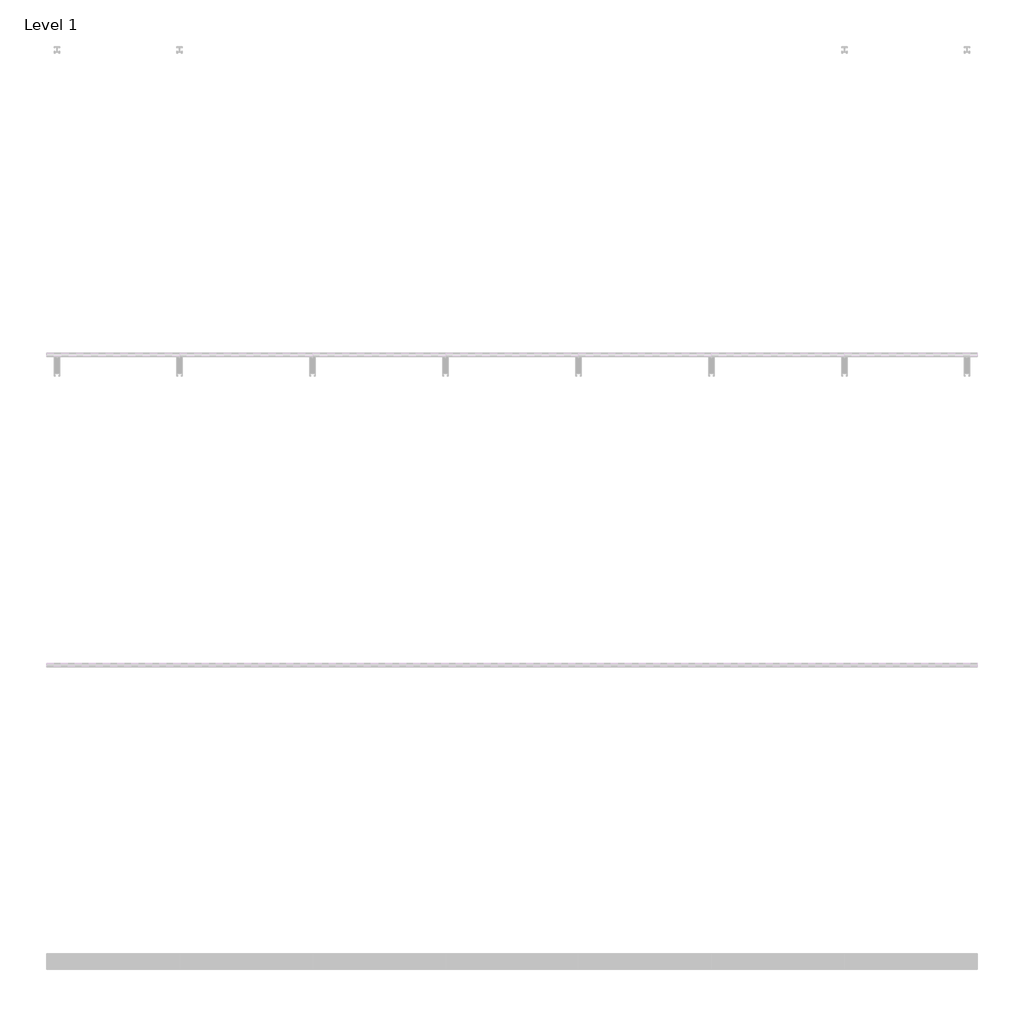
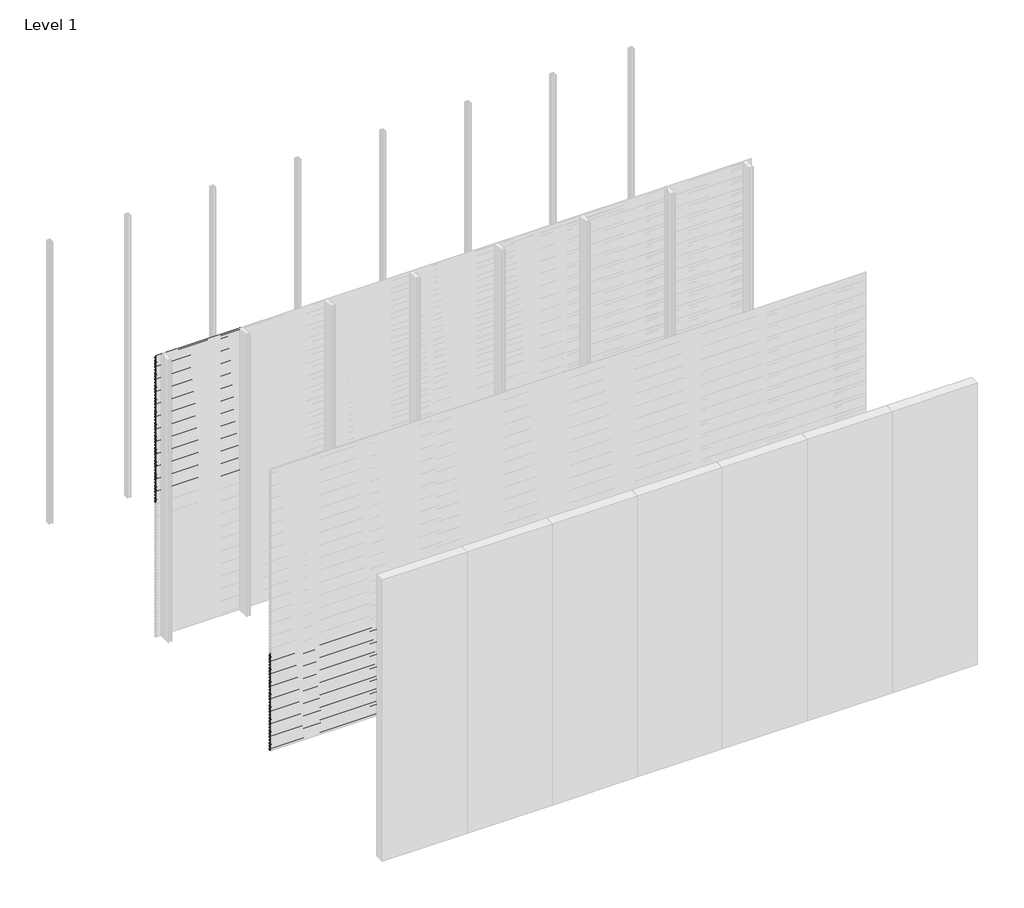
# One storey, part 14 of 96: 78 proxies.
"""IFC4 building model written with IfcOpenShell, lengths in millimetres."""

from ifc_helpers import new_model, si_unit, frame, origin, place, context, project, spatial, polyline, outline, extrude, element, save

model = new_model("IFC4")

# Units and contexts
model_context = context("Model", 3, world=origin())
ifc_project = project(units=[si_unit("LENGTHUNIT", "METRE", prefix="MILLI")], contexts=[model_context])

# Site, building, storey
site = spatial("IfcSite", under=ifc_project)
building = spatial("IfcBuilding", under=site)
storey = spatial("IfcBuildingStorey", under=building, Name="Level 1", Elevation=0.0)

# Proxies
placement = place(None, origin())
element("IfcBuildingElementProxy", 1, Name="Wall Sweeps", at=placement, inside=storey, context=model_context, shape_type="SweptSolid", body=[
    extrude(outline(polyline([(-47977.6, 2971.7655033), (-47977.6, 2957.4779188), (-47982.4114965, 2954.7), (-47982.4114965, 2955.9701706), (-47978.85, 2958.0264016), (-47978.85, 2971.0437382), (-47998.0, 2982.1000799), (-47998.0, 2997.0), (-47996.75, 2997.0), (-47996.75, 2982.8217609), (-47977.6, 2971.7655033)])), frame((0.0, 0.0, 0.0), z_axis=(1.0, 0.0, 0.0), x_axis=(0.0, 1.0, 0.0)), (0.0, 0.0, 1.0), 857.1428571),
])
element("IfcBuildingElementProxy", 2, Name="Wall Sweeps", at=placement, inside=storey, context=model_context, shape_type="SweptSolid", body=[
    extrude(outline(polyline([(-47977.6, 2938.4655033), (-47977.6, 2924.1779188), (-47982.4114965, 2921.4), (-47982.4114965, 2922.6701706), (-47978.85, 2924.7264016), (-47978.85, 2937.7437382), (-47998.0, 2948.8000799), (-47998.0, 2963.7), (-47996.75, 2963.7), (-47996.75, 2949.5217609), (-47977.6, 2938.4655033)])), frame((0.0, 0.0, 0.0), z_axis=(1.0, 0.0, 0.0), x_axis=(0.0, 1.0, 0.0)), (0.0, 0.0, 1.0), 857.1428571),
])
element("IfcBuildingElementProxy", 3, Name="Wall Sweeps", at=placement, inside=storey, context=model_context, shape_type="SweptSolid", body=[
    extrude(outline(polyline([(-47977.6, 2905.1655033), (-47977.6, 2890.8779188), (-47982.4114965, 2888.1), (-47982.4114965, 2889.3701706), (-47978.85, 2891.4264016), (-47978.85, 2904.4437382), (-47998.0, 2915.5000799), (-47998.0, 2930.4), (-47996.75, 2930.4), (-47996.75, 2916.2217609), (-47977.6, 2905.1655033)])), frame((0.0, 0.0, 0.0), z_axis=(1.0, 0.0, 0.0), x_axis=(0.0, 1.0, 0.0)), (0.0, 0.0, 1.0), 857.1428571),
])
element("IfcBuildingElementProxy", 4, Name="Wall Sweeps", at=placement, inside=storey, context=model_context, shape_type="SweptSolid", body=[
    extrude(outline(polyline([(-47977.6, 2871.8655033), (-47977.6, 2857.5779188), (-47982.4114965, 2854.8), (-47982.4114965, 2856.0701706), (-47978.85, 2858.1264016), (-47978.85, 2871.1437382), (-47998.0, 2882.2000799), (-47998.0, 2897.1), (-47996.75, 2897.1), (-47996.75, 2882.9217609), (-47977.6, 2871.8655033)])), frame((0.0, 0.0, 0.0), z_axis=(1.0, 0.0, 0.0), x_axis=(0.0, 1.0, 0.0)), (0.0, 0.0, 1.0), 857.1428571),
])
element("IfcBuildingElementProxy", 5, Name="Wall Sweeps", at=placement, inside=storey, context=model_context, shape_type="SweptSolid", body=[
    extrude(outline(polyline([(-47977.6, 2838.5655033), (-47977.6, 2824.2779188), (-47982.4114965, 2821.5), (-47982.4114965, 2822.7701706), (-47978.85, 2824.8264016), (-47978.85, 2837.8437382), (-47998.0, 2848.9000799), (-47998.0, 2863.8), (-47996.75, 2863.8), (-47996.75, 2849.6217609), (-47977.6, 2838.5655033)])), frame((0.0, 0.0, 0.0), z_axis=(1.0, 0.0, 0.0), x_axis=(0.0, 1.0, 0.0)), (0.0, 0.0, 1.0), 857.1428571),
])
element("IfcBuildingElementProxy", 6, Name="Wall Sweeps", at=placement, inside=storey, context=model_context, shape_type="SweptSolid", body=[
    extrude(outline(polyline([(-47977.6, 2805.2655033), (-47977.6, 2790.9779188), (-47982.4114965, 2788.2), (-47982.4114965, 2789.4701706), (-47978.85, 2791.5264016), (-47978.85, 2804.5437382), (-47998.0, 2815.6000799), (-47998.0, 2830.5), (-47996.75, 2830.5), (-47996.75, 2816.3217609), (-47977.6, 2805.2655033)])), frame((0.0, 0.0, 0.0), z_axis=(1.0, 0.0, 0.0), x_axis=(0.0, 1.0, 0.0)), (0.0, 0.0, 1.0), 857.1428571),
])
element("IfcBuildingElementProxy", 7, Name="Wall Sweeps", at=placement, inside=storey, context=model_context, shape_type="SweptSolid", body=[
    extrude(outline(polyline([(-47977.6, 2771.9655033), (-47977.6, 2757.6779188), (-47982.4114965, 2754.9), (-47982.4114965, 2756.1701706), (-47978.85, 2758.2264016), (-47978.85, 2771.2437382), (-47998.0, 2782.3000799), (-47998.0, 2797.2), (-47996.75, 2797.2), (-47996.75, 2783.0217609), (-47977.6, 2771.9655033)])), frame((0.0, 0.0, 0.0), z_axis=(1.0, 0.0, 0.0), x_axis=(0.0, 1.0, 0.0)), (0.0, 0.0, 1.0), 857.1428571),
])
element("IfcBuildingElementProxy", 8, Name="Wall Sweeps", at=placement, inside=storey, context=model_context, shape_type="SweptSolid", body=[
    extrude(outline(polyline([(-47977.6, 2738.6655033), (-47977.6, 2724.3779188), (-47982.4114965, 2721.6), (-47982.4114965, 2722.8701706), (-47978.85, 2724.9264016), (-47978.85, 2737.9437382), (-47998.0, 2749.0000799), (-47998.0, 2763.9), (-47996.75, 2763.9), (-47996.75, 2749.7217609), (-47977.6, 2738.6655033)])), frame((0.0, 0.0, 0.0), z_axis=(1.0, 0.0, 0.0), x_axis=(0.0, 1.0, 0.0)), (0.0, 0.0, 1.0), 857.1428571),
])
element("IfcBuildingElementProxy", 9, Name="Wall Sweeps", at=placement, inside=storey, context=model_context, shape_type="SweptSolid", body=[
    extrude(outline(polyline([(-47977.6, 2705.3655033), (-47977.6, 2691.0779188), (-47982.4114965, 2688.3), (-47982.4114965, 2689.5701706), (-47978.85, 2691.6264016), (-47978.85, 2704.6437382), (-47998.0, 2715.7000799), (-47998.0, 2730.6), (-47996.75, 2730.6), (-47996.75, 2716.4217609), (-47977.6, 2705.3655033)])), frame((0.0, 0.0, 0.0), z_axis=(1.0, 0.0, 0.0), x_axis=(0.0, 1.0, 0.0)), (0.0, 0.0, 1.0), 857.1428571),
])
element("IfcBuildingElementProxy", 10, Name="Wall Sweeps", at=placement, inside=storey, context=model_context, shape_type="SweptSolid", body=[
    extrude(outline(polyline([(-47977.6, 2672.0655033), (-47977.6, 2657.7779188), (-47982.4114965, 2655.0), (-47982.4114965, 2656.2701706), (-47978.85, 2658.3264016), (-47978.85, 2671.3437382), (-47998.0, 2682.4000799), (-47998.0, 2697.3), (-47996.75, 2697.3), (-47996.75, 2683.1217609), (-47977.6, 2672.0655033)])), frame((0.0, 0.0, 0.0), z_axis=(1.0, 0.0, 0.0), x_axis=(0.0, 1.0, 0.0)), (0.0, 0.0, 1.0), 857.1428571),
])
element("IfcBuildingElementProxy", 11, Name="Wall Sweeps", at=placement, inside=storey, context=model_context, shape_type="SweptSolid", body=[
    extrude(outline(polyline([(-47977.6, 2638.7655033), (-47977.6, 2624.4779188), (-47982.4114965, 2621.7), (-47982.4114965, 2622.9701706), (-47978.85, 2625.0264016), (-47978.85, 2638.0437382), (-47998.0, 2649.1000799), (-47998.0, 2664.0), (-47996.75, 2664.0), (-47996.75, 2649.8217609), (-47977.6, 2638.7655033)])), frame((0.0, 0.0, 0.0), z_axis=(1.0, 0.0, 0.0), x_axis=(0.0, 1.0, 0.0)), (0.0, 0.0, 1.0), 857.1428571),
])
element("IfcBuildingElementProxy", 12, Name="Wall Sweeps", at=placement, inside=storey, context=model_context, shape_type="SweptSolid", body=[
    extrude(outline(polyline([(-47977.6, 2605.4655033), (-47977.6, 2591.1779188), (-47982.4114965, 2588.4), (-47982.4114965, 2589.6701706), (-47978.85, 2591.7264016), (-47978.85, 2604.7437382), (-47998.0, 2615.8000799), (-47998.0, 2630.7), (-47996.75, 2630.7), (-47996.75, 2616.5217609), (-47977.6, 2605.4655033)])), frame((0.0, 0.0, 0.0), z_axis=(1.0, 0.0, 0.0), x_axis=(0.0, 1.0, 0.0)), (0.0, 0.0, 1.0), 857.1428571),
])
element("IfcBuildingElementProxy", 13, Name="Wall Sweeps", at=placement, inside=storey, context=model_context, shape_type="SweptSolid", body=[
    extrude(outline(polyline([(-47977.6, 2572.1655033), (-47977.6, 2557.8779188), (-47982.4114965, 2555.1), (-47982.4114965, 2556.3701706), (-47978.85, 2558.4264016), (-47978.85, 2571.4437382), (-47998.0, 2582.5000799), (-47998.0, 2597.4), (-47996.75, 2597.4), (-47996.75, 2583.2217609), (-47977.6, 2572.1655033)])), frame((0.0, 0.0, 0.0), z_axis=(1.0, 0.0, 0.0), x_axis=(0.0, 1.0, 0.0)), (0.0, 0.0, 1.0), 857.1428571),
])
element("IfcBuildingElementProxy", 14, Name="Wall Sweeps", at=placement, inside=storey, context=model_context, shape_type="SweptSolid", body=[
    extrude(outline(polyline([(-47977.6, 2538.8655033), (-47977.6, 2524.5779188), (-47982.4114965, 2521.8), (-47982.4114965, 2523.0701706), (-47978.85, 2525.1264016), (-47978.85, 2538.1437382), (-47998.0, 2549.2000799), (-47998.0, 2564.1), (-47996.75, 2564.1), (-47996.75, 2549.9217609), (-47977.6, 2538.8655033)])), frame((0.0, 0.0, 0.0), z_axis=(1.0, 0.0, 0.0), x_axis=(0.0, 1.0, 0.0)), (0.0, 0.0, 1.0), 857.1428571),
])
element("IfcBuildingElementProxy", 15, Name="Wall Sweeps", at=placement, inside=storey, context=model_context, shape_type="SweptSolid", body=[
    extrude(outline(polyline([(-47977.6, 2505.5655033), (-47977.6, 2491.2779188), (-47982.4114965, 2488.5), (-47982.4114965, 2489.7701706), (-47978.85, 2491.8264016), (-47978.85, 2504.8437382), (-47998.0, 2515.9000799), (-47998.0, 2530.8), (-47996.75, 2530.8), (-47996.75, 2516.6217609), (-47977.6, 2505.5655033)])), frame((0.0, 0.0, 0.0), z_axis=(1.0, 0.0, 0.0), x_axis=(0.0, 1.0, 0.0)), (0.0, 0.0, 1.0), 857.1428571),
])
element("IfcBuildingElementProxy", 16, Name="Wall Sweeps", at=placement, inside=storey, context=model_context, shape_type="SweptSolid", body=[
    extrude(outline(polyline([(-47977.6, 2472.2655033), (-47977.6, 2457.9779188), (-47982.4114965, 2455.2), (-47982.4114965, 2456.4701706), (-47978.85, 2458.5264016), (-47978.85, 2471.5437382), (-47998.0, 2482.6000799), (-47998.0, 2497.5), (-47996.75, 2497.5), (-47996.75, 2483.3217609), (-47977.6, 2472.2655033)])), frame((0.0, 0.0, 0.0), z_axis=(1.0, 0.0, 0.0), x_axis=(0.0, 1.0, 0.0)), (0.0, 0.0, 1.0), 857.1428571),
])
element("IfcBuildingElementProxy", 17, Name="Wall Sweeps", at=placement, inside=storey, context=model_context, shape_type="SweptSolid", body=[
    extrude(outline(polyline([(-47977.6, 2438.9655033), (-47977.6, 2424.6779188), (-47982.4114965, 2421.9), (-47982.4114965, 2423.1701706), (-47978.85, 2425.2264016), (-47978.85, 2438.2437382), (-47998.0, 2449.3000799), (-47998.0, 2464.2), (-47996.75, 2464.2), (-47996.75, 2450.0217609), (-47977.6, 2438.9655033)])), frame((0.0, 0.0, 0.0), z_axis=(1.0, 0.0, 0.0), x_axis=(0.0, 1.0, 0.0)), (0.0, 0.0, 1.0), 857.1428571),
])
element("IfcBuildingElementProxy", 18, Name="Wall Sweeps", at=placement, inside=storey, context=model_context, shape_type="SweptSolid", body=[
    extrude(outline(polyline([(-47977.6, 2405.6655033), (-47977.6, 2391.3779188), (-47982.4114965, 2388.6), (-47982.4114965, 2389.8701706), (-47978.85, 2391.9264016), (-47978.85, 2404.9437382), (-47998.0, 2416.0000799), (-47998.0, 2430.9), (-47996.75, 2430.9), (-47996.75, 2416.7217609), (-47977.6, 2405.6655033)])), frame((0.0, 0.0, 0.0), z_axis=(1.0, 0.0, 0.0), x_axis=(0.0, 1.0, 0.0)), (0.0, 0.0, 1.0), 857.1428571),
])
element("IfcBuildingElementProxy", 19, Name="Wall Sweeps", at=placement, inside=storey, context=model_context, shape_type="SweptSolid", body=[
    extrude(outline(polyline([(-47977.6, 2372.3655033), (-47977.6, 2358.0779188), (-47982.4114965, 2355.3), (-47982.4114965, 2356.5701706), (-47978.85, 2358.6264016), (-47978.85, 2371.6437382), (-47998.0, 2382.7000799), (-47998.0, 2397.6), (-47996.75, 2397.6), (-47996.75, 2383.4217609), (-47977.6, 2372.3655033)])), frame((0.0, 0.0, 0.0), z_axis=(1.0, 0.0, 0.0), x_axis=(0.0, 1.0, 0.0)), (0.0, 0.0, 1.0), 857.1428571),
])
element("IfcBuildingElementProxy", 20, Name="Wall Sweeps", at=placement, inside=storey, context=model_context, shape_type="SweptSolid", body=[
    extrude(outline(polyline([(-47977.6, 2339.0655033), (-47977.6, 2324.7779188), (-47982.4114965, 2322.0), (-47982.4114965, 2323.2701706), (-47978.85, 2325.3264016), (-47978.85, 2338.3437382), (-47998.0, 2349.4000799), (-47998.0, 2364.3), (-47996.75, 2364.3), (-47996.75, 2350.1217609), (-47977.6, 2339.0655033)])), frame((0.0, 0.0, 0.0), z_axis=(1.0, 0.0, 0.0), x_axis=(0.0, 1.0, 0.0)), (0.0, 0.0, 1.0), 857.1428571),
])
element("IfcBuildingElementProxy", 21, Name="Wall Sweeps", at=placement, inside=storey, context=model_context, shape_type="SweptSolid", body=[
    extrude(outline(polyline([(-47977.6, 2305.7655033), (-47977.6, 2291.4779188), (-47982.4114965, 2288.7), (-47982.4114965, 2289.9701706), (-47978.85, 2292.0264016), (-47978.85, 2305.0437382), (-47998.0, 2316.1000799), (-47998.0, 2331.0), (-47996.75, 2331.0), (-47996.75, 2316.8217609), (-47977.6, 2305.7655033)])), frame((0.0, 0.0, 0.0), z_axis=(1.0, 0.0, 0.0), x_axis=(0.0, 1.0, 0.0)), (0.0, 0.0, 1.0), 857.1428571),
])
element("IfcBuildingElementProxy", 22, Name="Wall Sweeps", at=placement, inside=storey, context=model_context, shape_type="SweptSolid", body=[
    extrude(outline(polyline([(-47977.6, 2272.4655033), (-47977.6, 2258.1779188), (-47982.4114965, 2255.4), (-47982.4114965, 2256.6701706), (-47978.85, 2258.7264016), (-47978.85, 2271.7437382), (-47998.0, 2282.8000799), (-47998.0, 2297.7), (-47996.75, 2297.7), (-47996.75, 2283.5217609), (-47977.6, 2272.4655033)])), frame((0.0, 0.0, 0.0), z_axis=(1.0, 0.0, 0.0), x_axis=(0.0, 1.0, 0.0)), (0.0, 0.0, 1.0), 857.1428571),
])
element("IfcBuildingElementProxy", 23, Name="Wall Sweeps", at=placement, inside=storey, context=model_context, shape_type="SweptSolid", body=[
    extrude(outline(polyline([(-47977.6, 2239.1655033), (-47977.6, 2224.8779188), (-47982.4114965, 2222.1), (-47982.4114965, 2223.3701706), (-47978.85, 2225.4264016), (-47978.85, 2238.4437382), (-47998.0, 2249.5000799), (-47998.0, 2264.4), (-47996.75, 2264.4), (-47996.75, 2250.2217609), (-47977.6, 2239.1655033)])), frame((0.0, 0.0, 0.0), z_axis=(1.0, 0.0, 0.0), x_axis=(0.0, 1.0, 0.0)), (0.0, 0.0, 1.0), 857.1428571),
])
element("IfcBuildingElementProxy", 24, Name="Wall Sweeps", at=placement, inside=storey, context=model_context, shape_type="SweptSolid", body=[
    extrude(outline(polyline([(-47977.6, 2205.8655033), (-47977.6, 2191.5779188), (-47982.4114965, 2188.8), (-47982.4114965, 2190.0701706), (-47978.85, 2192.1264016), (-47978.85, 2205.1437382), (-47998.0, 2216.2000799), (-47998.0, 2231.1), (-47996.75, 2231.1), (-47996.75, 2216.9217609), (-47977.6, 2205.8655033)])), frame((0.0, 0.0, 0.0), z_axis=(1.0, 0.0, 0.0), x_axis=(0.0, 1.0, 0.0)), (0.0, 0.0, 1.0), 857.1428571),
])
element("IfcBuildingElementProxy", 25, Name="Wall Sweeps", at=placement, inside=storey, context=model_context, shape_type="SweptSolid", body=[
    extrude(outline(polyline([(-47977.6, 2172.5655033), (-47977.6, 2158.2779188), (-47982.4114965, 2155.5), (-47982.4114965, 2156.7701706), (-47978.85, 2158.8264016), (-47978.85, 2171.8437382), (-47998.0, 2182.9000799), (-47998.0, 2197.8), (-47996.75, 2197.8), (-47996.75, 2183.6217609), (-47977.6, 2172.5655033)])), frame((0.0, 0.0, 0.0), z_axis=(1.0, 0.0, 0.0), x_axis=(0.0, 1.0, 0.0)), (0.0, 0.0, 1.0), 857.1428571),
])
element("IfcBuildingElementProxy", 26, Name="Wall Sweeps", at=placement, inside=storey, context=model_context, shape_type="SweptSolid", body=[
    extrude(outline(polyline([(-47977.6, 2139.2655033), (-47977.6, 2124.9779188), (-47982.4114965, 2122.2), (-47982.4114965, 2123.4701706), (-47978.85, 2125.5264016), (-47978.85, 2138.5437382), (-47998.0, 2149.6000799), (-47998.0, 2164.5), (-47996.75, 2164.5), (-47996.75, 2150.3217609), (-47977.6, 2139.2655033)])), frame((0.0, 0.0, 0.0), z_axis=(1.0, 0.0, 0.0), x_axis=(0.0, 1.0, 0.0)), (0.0, 0.0, 1.0), 857.1428571),
])
element("IfcBuildingElementProxy", 27, Name="Wall Sweeps", at=placement, inside=storey, context=model_context, shape_type="SweptSolid", body=[
    extrude(outline(polyline([(-47977.6, 2105.9655033), (-47977.6, 2091.6779188), (-47982.4114965, 2088.9), (-47982.4114965, 2090.1701706), (-47978.85, 2092.2264016), (-47978.85, 2105.2437382), (-47998.0, 2116.3000799), (-47998.0, 2131.2), (-47996.75, 2131.2), (-47996.75, 2117.0217609), (-47977.6, 2105.9655033)])), frame((0.0, 0.0, 0.0), z_axis=(1.0, 0.0, 0.0), x_axis=(0.0, 1.0, 0.0)), (0.0, 0.0, 1.0), 857.1428571),
])
element("IfcBuildingElementProxy", 28, Name="Wall Sweeps", at=placement, inside=storey, context=model_context, shape_type="SweptSolid", body=[
    extrude(outline(polyline([(-47977.6, 2072.6655033), (-47977.6, 2058.3779188), (-47982.4114965, 2055.6), (-47982.4114965, 2056.8701706), (-47978.85, 2058.9264016), (-47978.85, 2071.9437382), (-47998.0, 2083.0000799), (-47998.0, 2097.9), (-47996.75, 2097.9), (-47996.75, 2083.7217609), (-47977.6, 2072.6655033)])), frame((0.0, 0.0, 0.0), z_axis=(1.0, 0.0, 0.0), x_axis=(0.0, 1.0, 0.0)), (0.0, 0.0, 1.0), 857.1428571),
])
element("IfcBuildingElementProxy", 29, Name="Wall Sweeps", at=placement, inside=storey, context=model_context, shape_type="SweptSolid", body=[
    extrude(outline(polyline([(-47977.6, 2039.3655033), (-47977.6, 2025.0779188), (-47982.4114965, 2022.3), (-47982.4114965, 2023.5701706), (-47978.85, 2025.6264016), (-47978.85, 2038.6437382), (-47998.0, 2049.7000799), (-47998.0, 2064.6), (-47996.75, 2064.6), (-47996.75, 2050.4217609), (-47977.6, 2039.3655033)])), frame((0.0, 0.0, 0.0), z_axis=(1.0, 0.0, 0.0), x_axis=(0.0, 1.0, 0.0)), (0.0, 0.0, 1.0), 857.1428571),
])
element("IfcBuildingElementProxy", 30, Name="Wall Sweeps", at=placement, inside=storey, context=model_context, shape_type="SweptSolid", body=[
    extrude(outline(polyline([(-47977.6, 2006.0655033), (-47977.6, 1991.7779188), (-47982.4114965, 1989.0), (-47982.4114965, 1990.2701706), (-47978.85, 1992.3264016), (-47978.85, 2005.3437382), (-47998.0, 2016.4000799), (-47998.0, 2031.3), (-47996.75, 2031.3), (-47996.75, 2017.1217609), (-47977.6, 2006.0655033)])), frame((0.0, 0.0, 0.0), z_axis=(1.0, 0.0, 0.0), x_axis=(0.0, 1.0, 0.0)), (0.0, 0.0, 1.0), 857.1428571),
])
element("IfcBuildingElementProxy", 31, Name="Wall Sweeps", at=placement, inside=storey, context=model_context, shape_type="SweptSolid", body=[
    extrude(outline(polyline([(-47977.6, 1972.7655033), (-47977.6, 1958.4779188), (-47982.4114965, 1955.7), (-47982.4114965, 1956.9701706), (-47978.85, 1959.0264016), (-47978.85, 1972.0437382), (-47998.0, 1983.1000799), (-47998.0, 1998.0), (-47996.75, 1998.0), (-47996.75, 1983.8217609), (-47977.6, 1972.7655033)])), frame((0.0, 0.0, 0.0), z_axis=(1.0, 0.0, 0.0), x_axis=(0.0, 1.0, 0.0)), (0.0, 0.0, 1.0), 857.1428571),
])
element("IfcBuildingElementProxy", 32, Name="Wall Sweeps", at=placement, inside=storey, context=model_context, shape_type="SweptSolid", body=[
    extrude(outline(polyline([(-47977.6, 1939.4655033), (-47977.6, 1925.1779188), (-47982.4114965, 1922.4), (-47982.4114965, 1923.6701706), (-47978.85, 1925.7264016), (-47978.85, 1938.7437382), (-47998.0, 1949.8000799), (-47998.0, 1964.7), (-47996.75, 1964.7), (-47996.75, 1950.5217609), (-47977.6, 1939.4655033)])), frame((0.0, 0.0, 0.0), z_axis=(1.0, 0.0, 0.0), x_axis=(0.0, 1.0, 0.0)), (0.0, 0.0, 1.0), 857.1428571),
])
element("IfcBuildingElementProxy", 33, Name="Wall Sweeps", at=placement, inside=storey, context=model_context, shape_type="SweptSolid", body=[
    extrude(outline(polyline([(-47977.6, 1906.1655033), (-47977.6, 1891.8779188), (-47982.4114965, 1889.1), (-47982.4114965, 1890.3701706), (-47978.85, 1892.4264016), (-47978.85, 1905.4437382), (-47998.0, 1916.5000799), (-47998.0, 1931.4), (-47996.75, 1931.4), (-47996.75, 1917.2217609), (-47977.6, 1906.1655033)])), frame((0.0, 0.0, 0.0), z_axis=(1.0, 0.0, 0.0), x_axis=(0.0, 1.0, 0.0)), (0.0, 0.0, 1.0), 857.1428571),
])
element("IfcBuildingElementProxy", 34, Name="Wall Sweeps", at=placement, inside=storey, context=model_context, shape_type="SweptSolid", body=[
    extrude(outline(polyline([(-47977.6, 1872.8655033), (-47977.6, 1858.5779188), (-47982.4114965, 1855.8), (-47982.4114965, 1857.0701706), (-47978.85, 1859.1264016), (-47978.85, 1872.1437382), (-47998.0, 1883.2000799), (-47998.0, 1898.1), (-47996.75, 1898.1), (-47996.75, 1883.9217609), (-47977.6, 1872.8655033)])), frame((0.0, 0.0, 0.0), z_axis=(1.0, 0.0, 0.0), x_axis=(0.0, 1.0, 0.0)), (0.0, 0.0, 1.0), 857.1428571),
])
element("IfcBuildingElementProxy", 35, Name="Wall Sweeps", at=placement, inside=storey, context=model_context, shape_type="SweptSolid", body=[
    extrude(outline(polyline([(-47977.6, 1839.5655033), (-47977.6, 1825.2779188), (-47982.4114965, 1822.5), (-47982.4114965, 1823.7701706), (-47978.85, 1825.8264016), (-47978.85, 1838.8437382), (-47998.0, 1849.9000799), (-47998.0, 1864.8), (-47996.75, 1864.8), (-47996.75, 1850.6217609), (-47977.6, 1839.5655033)])), frame((0.0, 0.0, 0.0), z_axis=(1.0, 0.0, 0.0), x_axis=(0.0, 1.0, 0.0)), (0.0, 0.0, 1.0), 857.1428571),
])
element("IfcBuildingElementProxy", 36, Name="Wall Sweeps", at=placement, inside=storey, context=model_context, shape_type="SweptSolid", body=[
    extrude(outline(polyline([(-47977.6, 1806.2655033), (-47977.6, 1791.9779188), (-47982.4114965, 1789.2), (-47982.4114965, 1790.4701706), (-47978.85, 1792.5264016), (-47978.85, 1805.5437382), (-47998.0, 1816.6000799), (-47998.0, 1831.5), (-47996.75, 1831.5), (-47996.75, 1817.3217609), (-47977.6, 1806.2655033)])), frame((0.0, 0.0, 0.0), z_axis=(1.0, 0.0, 0.0), x_axis=(0.0, 1.0, 0.0)), (0.0, 0.0, 1.0), 857.1428571),
])
element("IfcBuildingElementProxy", 37, Name="Wall Sweeps", at=placement, inside=storey, context=model_context, shape_type="SweptSolid", body=[
    extrude(outline(polyline([(-47977.6, 1772.9655033), (-47977.6, 1758.6779188), (-47982.4114965, 1755.9), (-47982.4114965, 1757.1701706), (-47978.85, 1759.2264016), (-47978.85, 1772.2437382), (-47998.0, 1783.3000799), (-47998.0, 1798.2), (-47996.75, 1798.2), (-47996.75, 1784.0217609), (-47977.6, 1772.9655033)])), frame((0.0, 0.0, 0.0), z_axis=(1.0, 0.0, 0.0), x_axis=(0.0, 1.0, 0.0)), (0.0, 0.0, 1.0), 857.1428571),
])
element("IfcBuildingElementProxy", 38, Name="Wall Sweeps", at=placement, inside=storey, context=model_context, shape_type="SweptSolid", body=[
    extrude(outline(polyline([(-47977.6, 1739.6655033), (-47977.6, 1725.3779188), (-47982.4114965, 1722.6), (-47982.4114965, 1723.8701706), (-47978.85, 1725.9264016), (-47978.85, 1738.9437382), (-47998.0, 1750.0000799), (-47998.0, 1764.9), (-47996.75, 1764.9), (-47996.75, 1750.7217609), (-47977.6, 1739.6655033)])), frame((0.0, 0.0, 0.0), z_axis=(1.0, 0.0, 0.0), x_axis=(0.0, 1.0, 0.0)), (0.0, 0.0, 1.0), 857.1428571),
])
element("IfcBuildingElementProxy", 39, Name="Wall Sweeps", at=placement, inside=storey, context=model_context, shape_type="SweptSolid", body=[
    extrude(outline(polyline([(-47977.6, 1706.3655033), (-47977.6, 1692.0779188), (-47982.4114965, 1689.3), (-47982.4114965, 1690.5701706), (-47978.85, 1692.6264016), (-47978.85, 1705.6437382), (-47998.0, 1716.7000799), (-47998.0, 1731.6), (-47996.75, 1731.6), (-47996.75, 1717.4217609), (-47977.6, 1706.3655033)])), frame((0.0, 0.0, 0.0), z_axis=(1.0, 0.0, 0.0), x_axis=(0.0, 1.0, 0.0)), (0.0, 0.0, 1.0), 857.1428571),
])
element("IfcBuildingElementProxy", 40, Name="Wall Sweeps", at=placement, inside=storey, context=model_context, shape_type="SweptSolid", body=[
    extrude(outline(polyline([(-47977.6, 1673.0655033), (-47977.6, 1658.7779188), (-47982.4114965, 1656.0), (-47982.4114965, 1657.2701706), (-47978.85, 1659.3264016), (-47978.85, 1672.3437382), (-47998.0, 1683.4000799), (-47998.0, 1698.3), (-47996.75, 1698.3), (-47996.75, 1684.1217609), (-47977.6, 1673.0655033)])), frame((0.0, 0.0, 0.0), z_axis=(1.0, 0.0, 0.0), x_axis=(0.0, 1.0, 0.0)), (0.0, 0.0, 1.0), 857.1428571),
])
element("IfcBuildingElementProxy", 41, Name="Wall Sweeps", at=placement, inside=storey, context=model_context, shape_type="SweptSolid", body=[
    extrude(outline(polyline([(-47977.6, 1639.7655033), (-47977.6, 1625.4779188), (-47982.4114965, 1622.7), (-47982.4114965, 1623.9701706), (-47978.85, 1626.0264016), (-47978.85, 1639.0437382), (-47998.0, 1650.1000799), (-47998.0, 1665.0), (-47996.75, 1665.0), (-47996.75, 1650.8217609), (-47977.6, 1639.7655033)])), frame((0.0, 0.0, 0.0), z_axis=(1.0, 0.0, 0.0), x_axis=(0.0, 1.0, 0.0)), (0.0, 0.0, 1.0), 857.1428571),
])
element("IfcBuildingElementProxy", 42, Name="Wall Sweeps", at=placement, inside=storey, context=model_context, shape_type="SweptSolid", body=[
    extrude(outline(polyline([(-47977.6, 1606.4655033), (-47977.6, 1592.1779188), (-47982.4114965, 1589.4), (-47982.4114965, 1590.6701706), (-47978.85, 1592.7264016), (-47978.85, 1605.7437382), (-47998.0, 1616.8000799), (-47998.0, 1631.7), (-47996.75, 1631.7), (-47996.75, 1617.5217609), (-47977.6, 1606.4655033)])), frame((0.0, 0.0, 0.0), z_axis=(1.0, 0.0, 0.0), x_axis=(0.0, 1.0, 0.0)), (0.0, 0.0, 1.0), 857.1428571),
])
element("IfcBuildingElementProxy", 43, Name="Wall Sweeps", at=placement, inside=storey, context=model_context, shape_type="SweptSolid", body=[
    extrude(outline(polyline([(-47977.6, 1573.1655033), (-47977.6, 1558.8779188), (-47982.4114965, 1556.1), (-47982.4114965, 1557.3701706), (-47978.85, 1559.4264016), (-47978.85, 1572.4437382), (-47998.0, 1583.5000799), (-47998.0, 1598.4), (-47996.75, 1598.4), (-47996.75, 1584.2217609), (-47977.6, 1573.1655033)])), frame((0.0, 0.0, 0.0), z_axis=(1.0, 0.0, 0.0), x_axis=(0.0, 1.0, 0.0)), (0.0, 0.0, 1.0), 857.1428571),
])
element("IfcBuildingElementProxy", 44, Name="Wall Sweeps", at=placement, inside=storey, context=model_context, shape_type="SweptSolid", body=[
    extrude(outline(polyline([(-47977.6, 1539.8655033), (-47977.6, 1525.5779188), (-47982.4114965, 1522.8), (-47982.4114965, 1524.0701706), (-47978.85, 1526.1264016), (-47978.85, 1539.1437382), (-47998.0, 1550.2000799), (-47998.0, 1565.1), (-47996.75, 1565.1), (-47996.75, 1550.9217609), (-47977.6, 1539.8655033)])), frame((0.0, 0.0, 0.0), z_axis=(1.0, 0.0, 0.0), x_axis=(0.0, 1.0, 0.0)), (0.0, 0.0, 1.0), 857.1428571),
])
element("IfcBuildingElementProxy", 45, Name="Wall Sweeps", at=placement, inside=storey, context=model_context, shape_type="SweptSolid", body=[
    extrude(outline(polyline([(-47977.6, 1506.5655033), (-47977.6, 1492.2779188), (-47982.4114965, 1489.5), (-47982.4114965, 1490.7701706), (-47978.85, 1492.8264016), (-47978.85, 1505.8437382), (-47998.0, 1516.9000799), (-47998.0, 1531.8), (-47996.75, 1531.8), (-47996.75, 1517.6217609), (-47977.6, 1506.5655033)])), frame((0.0, 0.0, 0.0), z_axis=(1.0, 0.0, 0.0), x_axis=(0.0, 1.0, 0.0)), (0.0, 0.0, 1.0), 857.1428571),
])
element("IfcBuildingElementProxy", 46, Name="Wall Sweeps", at=placement, inside=storey, context=model_context, shape_type="SweptSolid", body=[
    extrude(outline(polyline([(-47977.6, 1473.2655033), (-47977.6, 1458.9779188), (-47982.4114965, 1456.2), (-47982.4114965, 1457.4701706), (-47978.85, 1459.5264016), (-47978.85, 1472.5437382), (-47998.0, 1483.6000799), (-47998.0, 1498.5), (-47996.75, 1498.5), (-47996.75, 1484.3217609), (-47977.6, 1473.2655033)])), frame((0.0, 0.0, 0.0), z_axis=(1.0, 0.0, 0.0), x_axis=(0.0, 1.0, 0.0)), (0.0, 0.0, 1.0), 857.1428571),
])
element("IfcBuildingElementProxy", 47, Name="Wall Sweeps", at=placement, inside=storey, context=model_context, shape_type="SweptSolid", body=[
    extrude(outline(polyline([(-47977.6, 1439.9655033), (-47977.6, 1425.6779188), (-47982.4114965, 1422.9), (-47982.4114965, 1424.1701706), (-47978.85, 1426.2264016), (-47978.85, 1439.2437382), (-47998.0, 1450.3000799), (-47998.0, 1465.2), (-47996.75, 1465.2), (-47996.75, 1451.0217609), (-47977.6, 1439.9655033)])), frame((0.0, 0.0, 0.0), z_axis=(1.0, 0.0, 0.0), x_axis=(0.0, 1.0, 0.0)), (0.0, 0.0, 1.0), 857.1428571),
])
element("IfcBuildingElementProxy", 48, Name="Wall Sweeps", at=placement, inside=storey, context=model_context, shape_type="SweptSolid", body=[
    extrude(outline(polyline([(-49977.6, 1007.0655033), (-49977.6, 992.7779188), (-49982.4114965, 990.0), (-49982.4114965, 991.2701706), (-49978.85, 993.3264016), (-49978.85, 1006.3437382), (-49998.0, 1017.4000799), (-49998.0, 1032.3), (-49996.75, 1032.3), (-49996.75, 1018.1217609), (-49977.6, 1007.0655033)])), frame((0.0, 0.0, 0.0), z_axis=(1.0, 0.0, 0.0), x_axis=(0.0, 1.0, 0.0)), (0.0, 0.0, 1.0), 6000.0),
])
element("IfcBuildingElementProxy", 49, Name="Wall Sweeps", at=placement, inside=storey, context=model_context, shape_type="SweptSolid", body=[
    extrude(outline(polyline([(-49977.6, 973.7655033), (-49977.6, 959.4779188), (-49982.4114965, 956.7), (-49982.4114965, 957.9701706), (-49978.85, 960.0264016), (-49978.85, 973.0437382), (-49998.0, 984.1000799), (-49998.0, 999.0), (-49996.75, 999.0), (-49996.75, 984.8217609), (-49977.6, 973.7655033)])), frame((0.0, 0.0, 0.0), z_axis=(1.0, 0.0, 0.0), x_axis=(0.0, 1.0, 0.0)), (0.0, 0.0, 1.0), 6000.0),
])
element("IfcBuildingElementProxy", 50, Name="Wall Sweeps", at=placement, inside=storey, context=model_context, shape_type="SweptSolid", body=[
    extrude(outline(polyline([(-49977.6, 940.4655033), (-49977.6, 926.1779188), (-49982.4114965, 923.4), (-49982.4114965, 924.6701706), (-49978.85, 926.7264016), (-49978.85, 939.7437382), (-49998.0, 950.8000799), (-49998.0, 965.7), (-49996.75, 965.7), (-49996.75, 951.5217609), (-49977.6, 940.4655033)])), frame((0.0, 0.0, 0.0), z_axis=(1.0, 0.0, 0.0), x_axis=(0.0, 1.0, 0.0)), (0.0, 0.0, 1.0), 6000.0),
])
element("IfcBuildingElementProxy", 51, Name="Wall Sweeps", at=placement, inside=storey, context=model_context, shape_type="SweptSolid", body=[
    extrude(outline(polyline([(-49977.6, 907.1655033), (-49977.6, 892.8779188), (-49982.4114965, 890.1), (-49982.4114965, 891.3701706), (-49978.85, 893.4264016), (-49978.85, 906.4437382), (-49998.0, 917.5000799), (-49998.0, 932.4), (-49996.75, 932.4), (-49996.75, 918.2217609), (-49977.6, 907.1655033)])), frame((0.0, 0.0, 0.0), z_axis=(1.0, 0.0, 0.0), x_axis=(0.0, 1.0, 0.0)), (0.0, 0.0, 1.0), 6000.0),
])
element("IfcBuildingElementProxy", 52, Name="Wall Sweeps", at=placement, inside=storey, context=model_context, shape_type="SweptSolid", body=[
    extrude(outline(polyline([(-49977.6, 873.8655033), (-49977.6, 859.5779188), (-49982.4114965, 856.8), (-49982.4114965, 858.0701706), (-49978.85, 860.1264016), (-49978.85, 873.1437382), (-49998.0, 884.2000799), (-49998.0, 899.1), (-49996.75, 899.1), (-49996.75, 884.9217609), (-49977.6, 873.8655033)])), frame((0.0, 0.0, 0.0), z_axis=(1.0, 0.0, 0.0), x_axis=(0.0, 1.0, 0.0)), (0.0, 0.0, 1.0), 6000.0),
])
element("IfcBuildingElementProxy", 53, Name="Wall Sweeps", at=placement, inside=storey, context=model_context, shape_type="SweptSolid", body=[
    extrude(outline(polyline([(-49977.6, 840.5655033), (-49977.6, 826.2779188), (-49982.4114965, 823.5), (-49982.4114965, 824.7701706), (-49978.85, 826.8264016), (-49978.85, 839.8437382), (-49998.0, 850.9000799), (-49998.0, 865.8), (-49996.75, 865.8), (-49996.75, 851.6217609), (-49977.6, 840.5655033)])), frame((0.0, 0.0, 0.0), z_axis=(1.0, 0.0, 0.0), x_axis=(0.0, 1.0, 0.0)), (0.0, 0.0, 1.0), 6000.0),
])
element("IfcBuildingElementProxy", 54, Name="Wall Sweeps", at=placement, inside=storey, context=model_context, shape_type="SweptSolid", body=[
    extrude(outline(polyline([(-49977.6, 807.2655033), (-49977.6, 792.9779188), (-49982.4114965, 790.2), (-49982.4114965, 791.4701706), (-49978.85, 793.5264016), (-49978.85, 806.5437382), (-49998.0, 817.6000799), (-49998.0, 832.5), (-49996.75, 832.5), (-49996.75, 818.3217609), (-49977.6, 807.2655033)])), frame((0.0, 0.0, 0.0), z_axis=(1.0, 0.0, 0.0), x_axis=(0.0, 1.0, 0.0)), (0.0, 0.0, 1.0), 6000.0),
])
element("IfcBuildingElementProxy", 55, Name="Wall Sweeps", at=placement, inside=storey, context=model_context, shape_type="SweptSolid", body=[
    extrude(outline(polyline([(-49977.6, 773.9655033), (-49977.6, 759.6779188), (-49982.4114965, 756.9), (-49982.4114965, 758.1701706), (-49978.85, 760.2264016), (-49978.85, 773.2437382), (-49998.0, 784.3000799), (-49998.0, 799.2), (-49996.75, 799.2), (-49996.75, 785.0217609), (-49977.6, 773.9655033)])), frame((0.0, 0.0, 0.0), z_axis=(1.0, 0.0, 0.0), x_axis=(0.0, 1.0, 0.0)), (0.0, 0.0, 1.0), 6000.0),
])
element("IfcBuildingElementProxy", 56, Name="Wall Sweeps", at=placement, inside=storey, context=model_context, shape_type="SweptSolid", body=[
    extrude(outline(polyline([(-49977.6, 740.6655033), (-49977.6, 726.3779188), (-49982.4114965, 723.6), (-49982.4114965, 724.8701706), (-49978.85, 726.9264016), (-49978.85, 739.9437382), (-49998.0, 751.0000799), (-49998.0, 765.9), (-49996.75, 765.9), (-49996.75, 751.7217609), (-49977.6, 740.6655033)])), frame((0.0, 0.0, 0.0), z_axis=(1.0, 0.0, 0.0), x_axis=(0.0, 1.0, 0.0)), (0.0, 0.0, 1.0), 6000.0),
])
element("IfcBuildingElementProxy", 57, Name="Wall Sweeps", at=placement, inside=storey, context=model_context, shape_type="SweptSolid", body=[
    extrude(outline(polyline([(-49977.6, 707.3655033), (-49977.6, 693.0779188), (-49982.4114965, 690.3), (-49982.4114965, 691.5701706), (-49978.85, 693.6264016), (-49978.85, 706.6437382), (-49998.0, 717.7000799), (-49998.0, 732.6), (-49996.75, 732.6), (-49996.75, 718.4217609), (-49977.6, 707.3655033)])), frame((0.0, 0.0, 0.0), z_axis=(1.0, 0.0, 0.0), x_axis=(0.0, 1.0, 0.0)), (0.0, 0.0, 1.0), 6000.0),
])
element("IfcBuildingElementProxy", 58, Name="Wall Sweeps", at=placement, inside=storey, context=model_context, shape_type="SweptSolid", body=[
    extrude(outline(polyline([(-49977.6, 674.0655033), (-49977.6, 659.7779188), (-49982.4114965, 657.0), (-49982.4114965, 658.2701706), (-49978.85, 660.3264016), (-49978.85, 673.3437382), (-49998.0, 684.4000799), (-49998.0, 699.3), (-49996.75, 699.3), (-49996.75, 685.1217609), (-49977.6, 674.0655033)])), frame((0.0, 0.0, 0.0), z_axis=(1.0, 0.0, 0.0), x_axis=(0.0, 1.0, 0.0)), (0.0, 0.0, 1.0), 6000.0),
])
element("IfcBuildingElementProxy", 59, Name="Wall Sweeps", at=placement, inside=storey, context=model_context, shape_type="SweptSolid", body=[
    extrude(outline(polyline([(-49977.6, 640.7655033), (-49977.6, 626.4779188), (-49982.4114965, 623.7), (-49982.4114965, 624.9701706), (-49978.85, 627.0264016), (-49978.85, 640.0437382), (-49998.0, 651.1000799), (-49998.0, 666.0), (-49996.75, 666.0), (-49996.75, 651.8217609), (-49977.6, 640.7655033)])), frame((0.0, 0.0, 0.0), z_axis=(1.0, 0.0, 0.0), x_axis=(0.0, 1.0, 0.0)), (0.0, 0.0, 1.0), 6000.0),
])
element("IfcBuildingElementProxy", 60, Name="Wall Sweeps", at=placement, inside=storey, context=model_context, shape_type="SweptSolid", body=[
    extrude(outline(polyline([(-49977.6, 607.4655033), (-49977.6, 593.1779188), (-49982.4114965, 590.4), (-49982.4114965, 591.6701706), (-49978.85, 593.7264016), (-49978.85, 606.7437382), (-49998.0, 617.8000799), (-49998.0, 632.7), (-49996.75, 632.7), (-49996.75, 618.5217609), (-49977.6, 607.4655033)])), frame((0.0, 0.0, 0.0), z_axis=(1.0, 0.0, 0.0), x_axis=(0.0, 1.0, 0.0)), (0.0, 0.0, 1.0), 6000.0),
])
element("IfcBuildingElementProxy", 61, Name="Wall Sweeps", at=placement, inside=storey, context=model_context, shape_type="SweptSolid", body=[
    extrude(outline(polyline([(-49977.6, 574.1655033), (-49977.6, 559.8779188), (-49982.4114965, 557.1), (-49982.4114965, 558.3701706), (-49978.85, 560.4264016), (-49978.85, 573.4437382), (-49998.0, 584.5000799), (-49998.0, 599.4), (-49996.75, 599.4), (-49996.75, 585.2217609), (-49977.6, 574.1655033)])), frame((0.0, 0.0, 0.0), z_axis=(1.0, 0.0, 0.0), x_axis=(0.0, 1.0, 0.0)), (0.0, 0.0, 1.0), 6000.0),
])
element("IfcBuildingElementProxy", 62, Name="Wall Sweeps", at=placement, inside=storey, context=model_context, shape_type="SweptSolid", body=[
    extrude(outline(polyline([(-49977.6, 540.8655033), (-49977.6, 526.5779188), (-49982.4114965, 523.8), (-49982.4114965, 525.0701706), (-49978.85, 527.1264016), (-49978.85, 540.1437382), (-49998.0, 551.2000799), (-49998.0, 566.1), (-49996.75, 566.1), (-49996.75, 551.9217609), (-49977.6, 540.8655033)])), frame((0.0, 0.0, 0.0), z_axis=(1.0, 0.0, 0.0), x_axis=(0.0, 1.0, 0.0)), (0.0, 0.0, 1.0), 6000.0),
])
element("IfcBuildingElementProxy", 63, Name="Wall Sweeps", at=placement, inside=storey, context=model_context, shape_type="SweptSolid", body=[
    extrude(outline(polyline([(-49977.6, 507.5655033), (-49977.6, 493.2779188), (-49982.4114965, 490.5), (-49982.4114965, 491.7701706), (-49978.85, 493.8264016), (-49978.85, 506.8437382), (-49998.0, 517.9000799), (-49998.0, 532.8), (-49996.75, 532.8), (-49996.75, 518.6217609), (-49977.6, 507.5655033)])), frame((0.0, 0.0, 0.0), z_axis=(1.0, 0.0, 0.0), x_axis=(0.0, 1.0, 0.0)), (0.0, 0.0, 1.0), 6000.0),
])
element("IfcBuildingElementProxy", 64, Name="Wall Sweeps", at=placement, inside=storey, context=model_context, shape_type="SweptSolid", body=[
    extrude(outline(polyline([(-49977.6, 474.2655033), (-49977.6, 459.9779188), (-49982.4114965, 457.2), (-49982.4114965, 458.4701706), (-49978.85, 460.5264016), (-49978.85, 473.5437382), (-49998.0, 484.6000799), (-49998.0, 499.5), (-49996.75, 499.5), (-49996.75, 485.3217609), (-49977.6, 474.2655033)])), frame((0.0, 0.0, 0.0), z_axis=(1.0, 0.0, 0.0), x_axis=(0.0, 1.0, 0.0)), (0.0, 0.0, 1.0), 6000.0),
])
element("IfcBuildingElementProxy", 65, Name="Wall Sweeps", at=placement, inside=storey, context=model_context, shape_type="SweptSolid", body=[
    extrude(outline(polyline([(-49977.6, 440.9655033), (-49977.6, 426.6779188), (-49982.4114965, 423.9), (-49982.4114965, 425.1701706), (-49978.85, 427.2264016), (-49978.85, 440.2437382), (-49998.0, 451.3000799), (-49998.0, 466.2), (-49996.75, 466.2), (-49996.75, 452.0217609), (-49977.6, 440.9655033)])), frame((0.0, 0.0, 0.0), z_axis=(1.0, 0.0, 0.0), x_axis=(0.0, 1.0, 0.0)), (0.0, 0.0, 1.0), 6000.0),
])
element("IfcBuildingElementProxy", 66, Name="Wall Sweeps", at=placement, inside=storey, context=model_context, shape_type="SweptSolid", body=[
    extrude(outline(polyline([(-49977.6, 407.6655033), (-49977.6, 393.3779188), (-49982.4114965, 390.6), (-49982.4114965, 391.8701706), (-49978.85, 393.9264016), (-49978.85, 406.9437382), (-49998.0, 418.0000799), (-49998.0, 432.9), (-49996.75, 432.9), (-49996.75, 418.7217609), (-49977.6, 407.6655033)])), frame((0.0, 0.0, 0.0), z_axis=(1.0, 0.0, 0.0), x_axis=(0.0, 1.0, 0.0)), (0.0, 0.0, 1.0), 6000.0),
])
element("IfcBuildingElementProxy", 67, Name="Wall Sweeps", at=placement, inside=storey, context=model_context, shape_type="SweptSolid", body=[
    extrude(outline(polyline([(-49977.6, 374.3655033), (-49977.6, 360.0779188), (-49982.4114965, 357.3), (-49982.4114965, 358.5701706), (-49978.85, 360.6264016), (-49978.85, 373.6437382), (-49998.0, 384.7000799), (-49998.0, 399.6), (-49996.75, 399.6), (-49996.75, 385.4217609), (-49977.6, 374.3655033)])), frame((0.0, 0.0, 0.0), z_axis=(1.0, 0.0, 0.0), x_axis=(0.0, 1.0, 0.0)), (0.0, 0.0, 1.0), 6000.0),
])
element("IfcBuildingElementProxy", 68, Name="Wall Sweeps", at=placement, inside=storey, context=model_context, shape_type="SweptSolid", body=[
    extrude(outline(polyline([(-49977.6, 341.0655033), (-49977.6, 326.7779188), (-49982.4114965, 324.0), (-49982.4114965, 325.2701706), (-49978.85, 327.3264016), (-49978.85, 340.3437382), (-49998.0, 351.4000799), (-49998.0, 366.3), (-49996.75, 366.3), (-49996.75, 352.1217609), (-49977.6, 341.0655033)])), frame((0.0, 0.0, 0.0), z_axis=(1.0, 0.0, 0.0), x_axis=(0.0, 1.0, 0.0)), (0.0, 0.0, 1.0), 6000.0),
])
element("IfcBuildingElementProxy", 69, Name="Wall Sweeps", at=placement, inside=storey, context=model_context, shape_type="SweptSolid", body=[
    extrude(outline(polyline([(-49977.6, 307.7655033), (-49977.6, 293.4779188), (-49982.4114965, 290.7), (-49982.4114965, 291.9701706), (-49978.85, 294.0264016), (-49978.85, 307.0437382), (-49998.0, 318.1000799), (-49998.0, 333.0), (-49996.75, 333.0), (-49996.75, 318.8217609), (-49977.6, 307.7655033)])), frame((0.0, 0.0, 0.0), z_axis=(1.0, 0.0, 0.0), x_axis=(0.0, 1.0, 0.0)), (0.0, 0.0, 1.0), 6000.0),
])
element("IfcBuildingElementProxy", 70, Name="Wall Sweeps", at=placement, inside=storey, context=model_context, shape_type="SweptSolid", body=[
    extrude(outline(polyline([(-49977.6, 274.4655033), (-49977.6, 260.1779188), (-49982.4114965, 257.4), (-49982.4114965, 258.6701706), (-49978.85, 260.7264016), (-49978.85, 273.7437382), (-49998.0, 284.8000799), (-49998.0, 299.7), (-49996.75, 299.7), (-49996.75, 285.5217609), (-49977.6, 274.4655033)])), frame((0.0, 0.0, 0.0), z_axis=(1.0, 0.0, 0.0), x_axis=(0.0, 1.0, 0.0)), (0.0, 0.0, 1.0), 6000.0),
])
element("IfcBuildingElementProxy", 71, Name="Wall Sweeps", at=placement, inside=storey, context=model_context, shape_type="SweptSolid", body=[
    extrude(outline(polyline([(-49977.6, 241.1655033), (-49977.6, 226.8779188), (-49982.4114965, 224.1), (-49982.4114965, 225.3701706), (-49978.85, 227.4264016), (-49978.85, 240.4437382), (-49998.0, 251.5000799), (-49998.0, 266.4), (-49996.75, 266.4), (-49996.75, 252.2217609), (-49977.6, 241.1655033)])), frame((0.0, 0.0, 0.0), z_axis=(1.0, 0.0, 0.0), x_axis=(0.0, 1.0, 0.0)), (0.0, 0.0, 1.0), 6000.0),
])
element("IfcBuildingElementProxy", 72, Name="Wall Sweeps", at=placement, inside=storey, context=model_context, shape_type="SweptSolid", body=[
    extrude(outline(polyline([(-49977.6, 207.8655033), (-49977.6, 193.5779188), (-49982.4114965, 190.8), (-49982.4114965, 192.0701706), (-49978.85, 194.1264016), (-49978.85, 207.1437382), (-49998.0, 218.2000799), (-49998.0, 233.1), (-49996.75, 233.1), (-49996.75, 218.9217609), (-49977.6, 207.8655033)])), frame((0.0, 0.0, 0.0), z_axis=(1.0, 0.0, 0.0), x_axis=(0.0, 1.0, 0.0)), (0.0, 0.0, 1.0), 6000.0),
])
element("IfcBuildingElementProxy", 73, Name="Wall Sweeps", at=placement, inside=storey, context=model_context, shape_type="SweptSolid", body=[
    extrude(outline(polyline([(-49977.6, 174.5655033), (-49977.6, 160.2779188), (-49982.4114965, 157.5), (-49982.4114965, 158.7701706), (-49978.85, 160.8264016), (-49978.85, 173.8437382), (-49998.0, 184.9000799), (-49998.0, 199.8), (-49996.75, 199.8), (-49996.75, 185.6217609), (-49977.6, 174.5655033)])), frame((0.0, 0.0, 0.0), z_axis=(1.0, 0.0, 0.0), x_axis=(0.0, 1.0, 0.0)), (0.0, 0.0, 1.0), 6000.0),
])
element("IfcBuildingElementProxy", 74, Name="Wall Sweeps", at=placement, inside=storey, context=model_context, shape_type="SweptSolid", body=[
    extrude(outline(polyline([(-49977.6, 141.2655033), (-49977.6, 126.9779188), (-49982.4114965, 124.2), (-49982.4114965, 125.4701706), (-49978.85, 127.5264016), (-49978.85, 140.5437382), (-49998.0, 151.6000799), (-49998.0, 166.5), (-49996.75, 166.5), (-49996.75, 152.3217609), (-49977.6, 141.2655033)])), frame((0.0, 0.0, 0.0), z_axis=(1.0, 0.0, 0.0), x_axis=(0.0, 1.0, 0.0)), (0.0, 0.0, 1.0), 6000.0),
])
element("IfcBuildingElementProxy", 75, Name="Wall Sweeps", at=placement, inside=storey, context=model_context, shape_type="SweptSolid", body=[
    extrude(outline(polyline([(-49977.6, 107.9655033), (-49977.6, 93.6779188), (-49982.4114965, 90.9), (-49982.4114965, 92.1701706), (-49978.85, 94.2264016), (-49978.85, 107.2437382), (-49998.0, 118.3000799), (-49998.0, 133.2), (-49996.75, 133.2), (-49996.75, 119.0217609), (-49977.6, 107.9655033)])), frame((0.0, 0.0, 0.0), z_axis=(1.0, 0.0, 0.0), x_axis=(0.0, 1.0, 0.0)), (0.0, 0.0, 1.0), 6000.0),
])
element("IfcBuildingElementProxy", 76, Name="Wall Sweeps", at=placement, inside=storey, context=model_context, shape_type="SweptSolid", body=[
    extrude(outline(polyline([(-49977.6, 74.6655033), (-49977.6, 60.3779188), (-49982.4114965, 57.6), (-49982.4114965, 58.8701706), (-49978.85, 60.9264016), (-49978.85, 73.9437382), (-49998.0, 85.0000799), (-49998.0, 99.9), (-49996.75, 99.9), (-49996.75, 85.7217609), (-49977.6, 74.6655033)])), frame((0.0, 0.0, 0.0), z_axis=(1.0, 0.0, 0.0), x_axis=(0.0, 1.0, 0.0)), (0.0, 0.0, 1.0), 6000.0),
])
element("IfcBuildingElementProxy", 77, Name="Wall Sweeps", at=placement, inside=storey, context=model_context, shape_type="SweptSolid", body=[
    extrude(outline(polyline([(-49977.6, 41.3655033), (-49977.6, 27.0779188), (-49982.4114965, 24.3), (-49982.4114965, 25.5701706), (-49978.85, 27.6264016), (-49978.85, 40.6437382), (-49998.0, 51.7000799), (-49998.0, 66.6), (-49996.75, 66.6), (-49996.75, 52.4217609), (-49977.6, 41.3655033)])), frame((0.0, 0.0, 0.0), z_axis=(1.0, 0.0, 0.0), x_axis=(0.0, 1.0, 0.0)), (0.0, 0.0, 1.0), 6000.0),
])
element("IfcBuildingElementProxy", 78, Name="Wall Sweeps", at=placement, inside=storey, context=model_context, shape_type="SweptSolid", body=[
    extrude(outline(polyline([(-49977.6, 8.0655033), (-49977.6, -6.2220812), (-49982.4114965, -9.0), (-49982.4114965, -7.7298294), (-49978.85, -5.6735984), (-49978.85, 7.3437382), (-49998.0, 18.4000799), (-49998.0, 33.3), (-49996.75, 33.3), (-49996.75, 19.1217609), (-49977.6, 8.0655033)])), frame((0.0, 0.0, 0.0), z_axis=(1.0, 0.0, 0.0), x_axis=(0.0, 1.0, 0.0)), (0.0, 0.0, 1.0), 6000.0),
])

save(model, "model.ifc")
